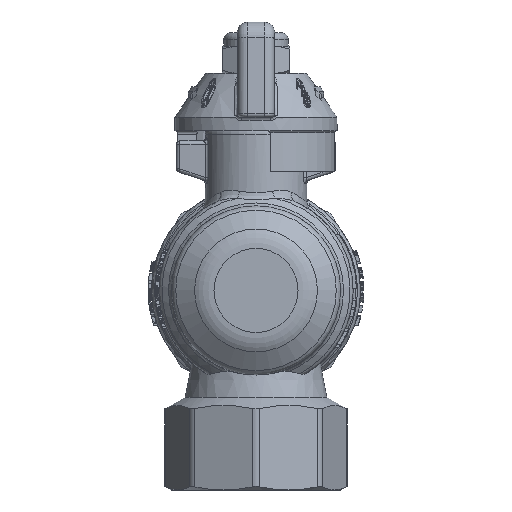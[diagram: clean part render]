
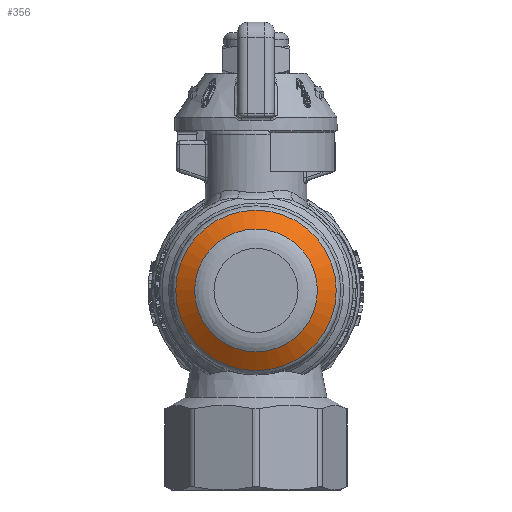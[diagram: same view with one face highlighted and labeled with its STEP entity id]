
A CAD part, front view. The second image highlights one B-rep face of the part: STEP entity #356.
In plain terms, the highlighted conical face has half-angle 55 degrees and reference radius 10.469 mm.
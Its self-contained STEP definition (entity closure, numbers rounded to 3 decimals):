
#356=ADVANCED_FACE('',(#5075,#5077),#5079,.T.);
#5075=FACE_OUTER_BOUND('',#5076,.T.);
#5076=EDGE_LOOP('',(#20311));
#5077=FACE_OUTER_BOUND('',#5078,.T.);
#5078=EDGE_LOOP('',(#20312));
#5079=CONICAL_SURFACE('',#5080,10.469,0.96);
#5080=AXIS2_PLACEMENT_3D('',#5081,#5082,#5083);
#5081=CARTESIAN_POINT('',(0.,-13.922,0.));
#5082=DIRECTION('',(0.,1.,0.));
#5083=DIRECTION('',(-1.,0.,0.));
#20311=ORIENTED_EDGE('',*,*,#30829,.F.);
#20312=ORIENTED_EDGE('',*,*,#30546,.F.);
#30546=EDGE_CURVE('',#37424,#37424,#37425,.T.);
#30829=EDGE_CURVE('',#37855,#37855,#37856,.F.);
#37424=VERTEX_POINT('',#53014);
#37425=CIRCLE('',#53015,11.86);
#37855=VERTEX_POINT('',#54319);
#37856=CIRCLE('',#54320,9.078);
#53014=CARTESIAN_POINT('',(-11.86,-12.948,0.));
#53015=AXIS2_PLACEMENT_3D('',#53016,#53017,#53018);
#53016=CARTESIAN_POINT('',(0.,-12.948,0.));
#53017=DIRECTION('',(0.,1.,0.));
#53018=DIRECTION('',(-1.,0.,0.));
#54319=CARTESIAN_POINT('',(-9.078,-14.896,0.));
#54320=AXIS2_PLACEMENT_3D('',#54321,#54322,#54323);
#54321=CARTESIAN_POINT('',(0.,-14.896,0.));
#54322=DIRECTION('',(0.,1.,0.));
#54323=DIRECTION('',(-1.,0.,0.));
